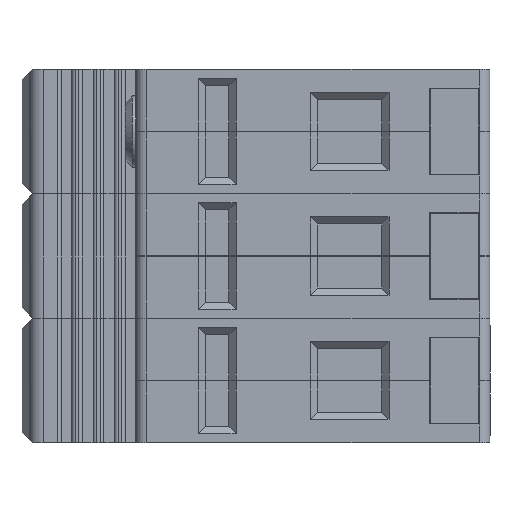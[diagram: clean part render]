
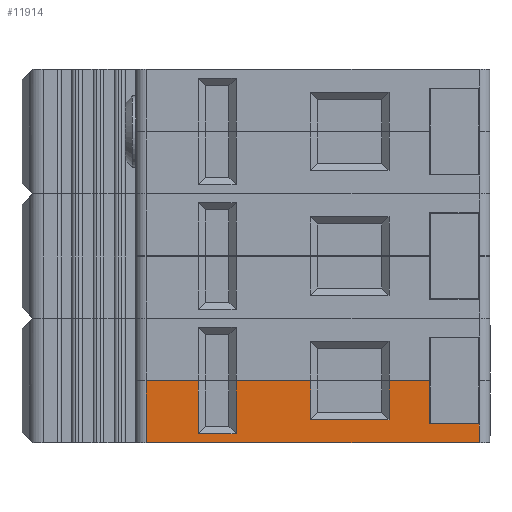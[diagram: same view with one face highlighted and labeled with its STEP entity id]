
A CAD part, left-side view. The second image highlights one B-rep face of the part: STEP entity #11914.
In plain terms, the highlighted planar face has unit normal (-1, 0, 0).
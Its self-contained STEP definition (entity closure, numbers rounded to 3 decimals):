
#827=FACE_OUTER_BOUND('',#1470,.T.);
#1470=EDGE_LOOP('',(#8816,#8817,#8818,#8819,#8820,#8821,#8822,#8823,#8824,
#8825,#8826,#8827,#8828,#8829));
#2020=LINE('',#17046,#3411);
#2026=LINE('',#17058,#3417);
#2032=LINE('',#17070,#3423);
#2284=LINE('',#17698,#3675);
#2446=LINE('',#18116,#3837);
#2448=LINE('',#18121,#3839);
#2467=LINE('',#18158,#3858);
#2470=LINE('',#18165,#3861);
#2489=LINE('',#18202,#3880);
#2492=LINE('',#18209,#3883);
#2493=LINE('',#18211,#3884);
#2494=LINE('',#18212,#3885);
#2495=LINE('',#18213,#3886);
#2496=LINE('',#18214,#3887);
#3411=VECTOR('',#13574,10.);
#3417=VECTOR('',#13580,10.);
#3423=VECTOR('',#13586,10.);
#3675=VECTOR('',#14066,10.);
#3837=VECTOR('',#14490,10.);
#3839=VECTOR('',#14496,10.);
#3858=VECTOR('',#14531,10.);
#3861=VECTOR('',#14538,10.);
#3880=VECTOR('',#14573,10.);
#3883=VECTOR('',#14580,10.);
#3884=VECTOR('',#14581,10.);
#3885=VECTOR('',#14582,10.);
#3886=VECTOR('',#14583,10.);
#3887=VECTOR('',#14584,10.);
#4800=VERTEX_POINT('',#17043);
#4801=VERTEX_POINT('',#17045);
#4806=VERTEX_POINT('',#17055);
#4807=VERTEX_POINT('',#17057);
#4812=VERTEX_POINT('',#17067);
#4813=VERTEX_POINT('',#17069);
#5068=VERTEX_POINT('',#17695);
#5069=VERTEX_POINT('',#17697);
#5189=VERTEX_POINT('',#18120);
#5199=VERTEX_POINT('',#18156);
#5201=VERTEX_POINT('',#18164);
#5211=VERTEX_POINT('',#18200);
#5213=VERTEX_POINT('',#18208);
#5214=VERTEX_POINT('',#18210);
#5985=EDGE_CURVE('',#4801,#4800,#2020,.T.);
#5991=EDGE_CURVE('',#4807,#4806,#2026,.T.);
#5997=EDGE_CURVE('',#4813,#4812,#2032,.T.);
#6308=EDGE_CURVE('',#5069,#5068,#2284,.T.);
#6517=EDGE_CURVE('',#5069,#4800,#2446,.T.);
#6519=EDGE_CURVE('',#4801,#5189,#2448,.T.);
#6538=EDGE_CURVE('',#5199,#4806,#2467,.T.);
#6541=EDGE_CURVE('',#4807,#5201,#2470,.T.);
#6560=EDGE_CURVE('',#5211,#4812,#2489,.T.);
#6563=EDGE_CURVE('',#5213,#5068,#2492,.T.);
#6564=EDGE_CURVE('',#5213,#5214,#2493,.T.);
#6565=EDGE_CURVE('',#5214,#4813,#2494,.T.);
#6566=EDGE_CURVE('',#5201,#5211,#2495,.T.);
#6567=EDGE_CURVE('',#5189,#5199,#2496,.T.);
#8816=ORIENTED_EDGE('',*,*,#5985,.T.);
#8817=ORIENTED_EDGE('',*,*,#6517,.F.);
#8818=ORIENTED_EDGE('',*,*,#6308,.T.);
#8819=ORIENTED_EDGE('',*,*,#6563,.F.);
#8820=ORIENTED_EDGE('',*,*,#6564,.T.);
#8821=ORIENTED_EDGE('',*,*,#6565,.T.);
#8822=ORIENTED_EDGE('',*,*,#5997,.T.);
#8823=ORIENTED_EDGE('',*,*,#6560,.F.);
#8824=ORIENTED_EDGE('',*,*,#6566,.F.);
#8825=ORIENTED_EDGE('',*,*,#6541,.F.);
#8826=ORIENTED_EDGE('',*,*,#5991,.T.);
#8827=ORIENTED_EDGE('',*,*,#6538,.F.);
#8828=ORIENTED_EDGE('',*,*,#6567,.F.);
#8829=ORIENTED_EDGE('',*,*,#6519,.F.);
#11416=PLANE('',#12750);
#11914=ADVANCED_FACE('',(#827),#11416,.T.);
#12750=AXIS2_PLACEMENT_3D('',#18207,#14578,#14579);
#13574=DIRECTION('',(0.,1.,0.));
#13580=DIRECTION('',(0.,1.,0.));
#13586=DIRECTION('',(0.,1.,0.));
#14066=DIRECTION('',(0.,-1.,0.));
#14490=DIRECTION('',(0.,0.,1.));
#14496=DIRECTION('',(0.,0.,-1.));
#14531=DIRECTION('',(0.,0.,1.));
#14538=DIRECTION('',(0.,0.,-1.));
#14573=DIRECTION('',(0.,0.,1.));
#14578=DIRECTION('center_axis',(-1.,0.,0.));
#14579=DIRECTION('ref_axis',(0.,-1.,0.));
#14580=DIRECTION('',(0.,0.,-1.));
#14581=DIRECTION('',(0.,1.,0.));
#14582=DIRECTION('',(0.,0.,1.));
#14583=DIRECTION('',(0.,-1.,0.));
#14584=DIRECTION('',(0.,-1.,0.));
#17043=CARTESIAN_POINT('',(-45.,12.5,8.7));
#17045=CARTESIAN_POINT('',(-45.,5.2,8.7));
#17046=CARTESIAN_POINT('',(-45.,4.197,8.7));
#17055=CARTESIAN_POINT('',(-45.,-0.1,8.7));
#17057=CARTESIAN_POINT('',(-45.,-10.6,8.7));
#17058=CARTESIAN_POINT('',(-45.,4.197,8.7));
#17067=CARTESIAN_POINT('',(-45.,-21.6,8.7));
#17069=CARTESIAN_POINT('',(-45.,-27.3,8.7));
#17070=CARTESIAN_POINT('',(-45.,4.197,8.7));
#17695=CARTESIAN_POINT('',(-45.,-34.3,0.));
#17697=CARTESIAN_POINT('',(-45.,12.5,0.));
#17698=CARTESIAN_POINT('',(-45.,14.,0.));
#18116=CARTESIAN_POINT('',(-45.,12.5,0.));
#18120=CARTESIAN_POINT('',(-45.,5.2,1.25));
#18121=CARTESIAN_POINT('',(-45.,5.2,1.125));
#18156=CARTESIAN_POINT('',(-45.,-0.1,1.25));
#18158=CARTESIAN_POINT('',(-45.,-0.1,7.625));
#18164=CARTESIAN_POINT('',(-45.,-10.6,3.25));
#18165=CARTESIAN_POINT('',(-45.,-10.6,2.125));
#18200=CARTESIAN_POINT('',(-45.,-21.6,3.25));
#18202=CARTESIAN_POINT('',(-45.,-21.6,6.625));
#18207=CARTESIAN_POINT('Origin',(-45.,14.,0.));
#18208=CARTESIAN_POINT('',(-45.,-34.3,2.64));
#18209=CARTESIAN_POINT('',(-45.,-34.3,0.));
#18210=CARTESIAN_POINT('',(-45.,-27.3,2.64));
#18211=CARTESIAN_POINT('',(-45.,-10.15,2.64));
#18212=CARTESIAN_POINT('',(-45.,-27.3,1.32));
#18213=CARTESIAN_POINT('',(-45.,-3.3,3.25));
#18214=CARTESIAN_POINT('',(-45.,7.45,1.25));
